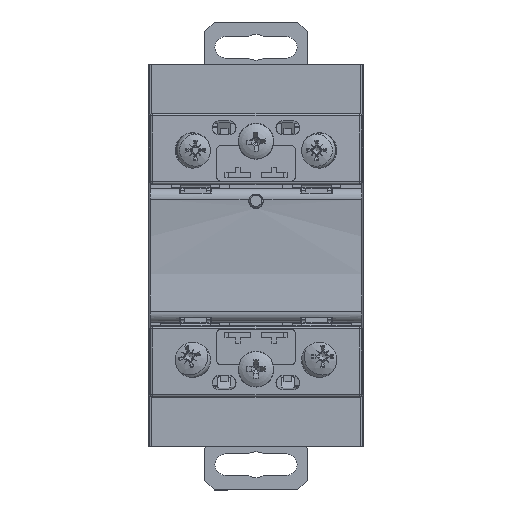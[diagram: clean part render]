
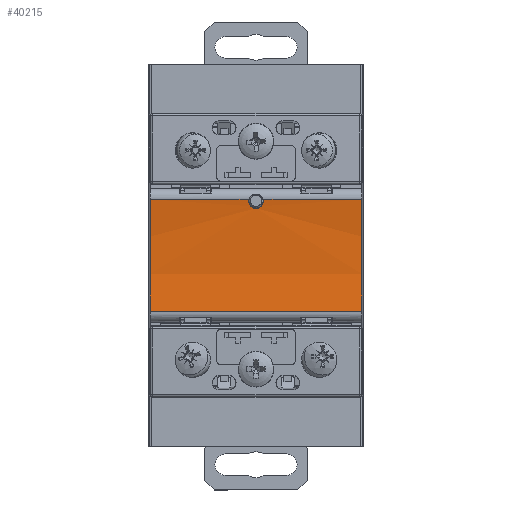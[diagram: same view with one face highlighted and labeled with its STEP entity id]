
A CAD part, top view. The second image highlights one B-rep face of the part: STEP entity #40215.
In plain terms, the highlighted cylindrical face has radius 80 mm (diameter 160 mm), a partial arc.
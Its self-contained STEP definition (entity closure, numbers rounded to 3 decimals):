
#972=B_SPLINE_CURVE_WITH_KNOTS('',3,(#67669,#67670,#67671,#67672),
 .UNSPECIFIED.,.F.,.F.,(4,4),(-0.265,-0.227),
 .UNSPECIFIED.);
#974=B_SPLINE_CURVE_WITH_KNOTS('',3,(#67692,#67693,#67694,#67695,#67696,
#67697,#67698,#67699,#67700,#67701,#67702,#67703,#67704,#67705,#67706,#67707,
#67708,#67709,#67710,#67711,#67712),.UNSPECIFIED.,.F.,.F.,(4,2,2,2,3,2,
2,2,2,4),(-0.227,-0.17,-0.113,-0.056,
0.,0.056,0.113,0.17,0.227,
0.265),.UNSPECIFIED.);
#3461=FACE_OUTER_BOUND('',#5609,.T.);
#5609=EDGE_LOOP('',(#32559,#32560,#32561,#32562,#32563,#32564,#32565));
#6751=ELLIPSE('',#43270,80.012,80.);
#6754=ELLIPSE('',#43275,80.012,80.);
#10432=LINE('',#67485,#14082);
#10486=LINE('',#67714,#14136);
#10487=LINE('',#67715,#14137);
#14082=VECTOR('',#51578,10.);
#14136=VECTOR('',#51700,10.);
#14137=VECTOR('',#51701,10.);
#17793=VERTEX_POINT('',#67014);
#17794=VERTEX_POINT('',#67016);
#17802=VERTEX_POINT('',#67036);
#17803=VERTEX_POINT('',#67038);
#17976=VERTEX_POINT('',#67666);
#17977=VERTEX_POINT('',#67668);
#17978=VERTEX_POINT('',#67673);
#22833=EDGE_CURVE('',#17793,#17794,#6751,.T.);
#22844=EDGE_CURVE('',#17802,#17803,#6754,.T.);
#23074=EDGE_CURVE('',#17794,#17802,#10432,.T.);
#23140=EDGE_CURVE('',#17977,#17976,#972,.T.);
#23142=EDGE_CURVE('',#17976,#17978,#974,.T.);
#23143=EDGE_CURVE('',#17803,#17978,#10486,.T.);
#23144=EDGE_CURVE('',#17977,#17793,#10487,.T.);
#32559=ORIENTED_EDGE('',*,*,#23074,.F.);
#32560=ORIENTED_EDGE('',*,*,#22833,.F.);
#32561=ORIENTED_EDGE('',*,*,#23144,.F.);
#32562=ORIENTED_EDGE('',*,*,#23140,.T.);
#32563=ORIENTED_EDGE('',*,*,#23142,.T.);
#32564=ORIENTED_EDGE('',*,*,#23143,.F.);
#32565=ORIENTED_EDGE('',*,*,#22844,.F.);
#37477=CYLINDRICAL_SURFACE('',#43396,80.);
#40215=ADVANCED_FACE('',(#3461),#37477,.F.);
#43270=AXIS2_PLACEMENT_3D('',#67017,#51175,#51176);
#43275=AXIS2_PLACEMENT_3D('',#67039,#51193,#51194);
#43396=AXIS2_PLACEMENT_3D('',#67733,#51715,#51716);
#51175=DIRECTION('center_axis',(-1.,0.,
-0.017));
#51176=DIRECTION('ref_axis',(0.017,0.,-1.));
#51193=DIRECTION('center_axis',(1.,0.,
-0.017));
#51194=DIRECTION('ref_axis',(-0.017,0.,
-1.));
#51578=DIRECTION('',(-1.,0.,0.));
#51700=DIRECTION('',(1.,0.,0.));
#51701=DIRECTION('',(1.,0.,0.));
#51715=DIRECTION('center_axis',(1.,0.,0.));
#51716=DIRECTION('ref_axis',(0.,0.174,-0.985));
#67014=CARTESIAN_POINT('',(22.145,11.688,28.634));
#67016=CARTESIAN_POINT('',(22.145,-11.704,28.634));
#67017=CARTESIAN_POINT('Origin',(20.763,-0.008,
107.775));
#67036=CARTESIAN_POINT('',(-22.145,-11.704,28.634));
#67038=CARTESIAN_POINT('',(-22.145,11.688,28.634));
#67039=CARTESIAN_POINT('Origin',(-20.763,-0.008,
107.775));
#67485=CARTESIAN_POINT('',(0.,-11.704,28.634));
#67666=CARTESIAN_POINT('',(1.5,11.3,28.578));
#67668=CARTESIAN_POINT('',(1.449,11.688,28.634));
#67669=CARTESIAN_POINT('Ctrl Pts',(1.449,11.688,28.634));
#67670=CARTESIAN_POINT('Ctrl Pts',(1.484,11.559,28.615));
#67671=CARTESIAN_POINT('Ctrl Pts',(1.5,11.427,28.596));
#67672=CARTESIAN_POINT('Ctrl Pts',(1.5,11.3,28.578));
#67673=CARTESIAN_POINT('',(-1.449,11.688,28.634));
#67692=CARTESIAN_POINT('Ctrl Pts',(1.5,11.3,28.578));
#67693=CARTESIAN_POINT('Ctrl Pts',(1.5,11.112,28.551));
#67694=CARTESIAN_POINT('Ctrl Pts',(1.462,10.911,28.523));
#67695=CARTESIAN_POINT('Ctrl Pts',(1.309,10.54,28.473));
#67696=CARTESIAN_POINT('Ctrl Pts',(1.193,10.371,28.451));
#67697=CARTESIAN_POINT('Ctrl Pts',(0.926,10.105,28.416));
#67698=CARTESIAN_POINT('Ctrl Pts',(0.758,9.99,28.402));
#67699=CARTESIAN_POINT('Ctrl Pts',(0.389,9.838,28.383));
#67700=CARTESIAN_POINT('Ctrl Pts',(0.188,9.8,28.378));
#67701=CARTESIAN_POINT('Ctrl Pts',(0.,9.8,28.378));
#67702=CARTESIAN_POINT('Ctrl Pts',(-0.188,9.8,28.378));
#67703=CARTESIAN_POINT('Ctrl Pts',(-0.389,9.838,
28.383));
#67704=CARTESIAN_POINT('Ctrl Pts',(-0.758,9.99,
28.402));
#67705=CARTESIAN_POINT('Ctrl Pts',(-0.926,10.105,
28.416));
#67706=CARTESIAN_POINT('Ctrl Pts',(-1.193,10.371,28.451));
#67707=CARTESIAN_POINT('Ctrl Pts',(-1.309,10.54,28.473));
#67708=CARTESIAN_POINT('Ctrl Pts',(-1.462,10.911,28.523));
#67709=CARTESIAN_POINT('Ctrl Pts',(-1.5,11.112,28.551));
#67710=CARTESIAN_POINT('Ctrl Pts',(-1.5,11.427,28.596));
#67711=CARTESIAN_POINT('Ctrl Pts',(-1.484,11.559,28.615));
#67712=CARTESIAN_POINT('Ctrl Pts',(-1.449,11.688,28.634));
#67714=CARTESIAN_POINT('',(0.,11.688,28.634));
#67715=CARTESIAN_POINT('',(0.,11.688,28.634));
#67733=CARTESIAN_POINT('Origin',(0.,-0.008,
107.775));
